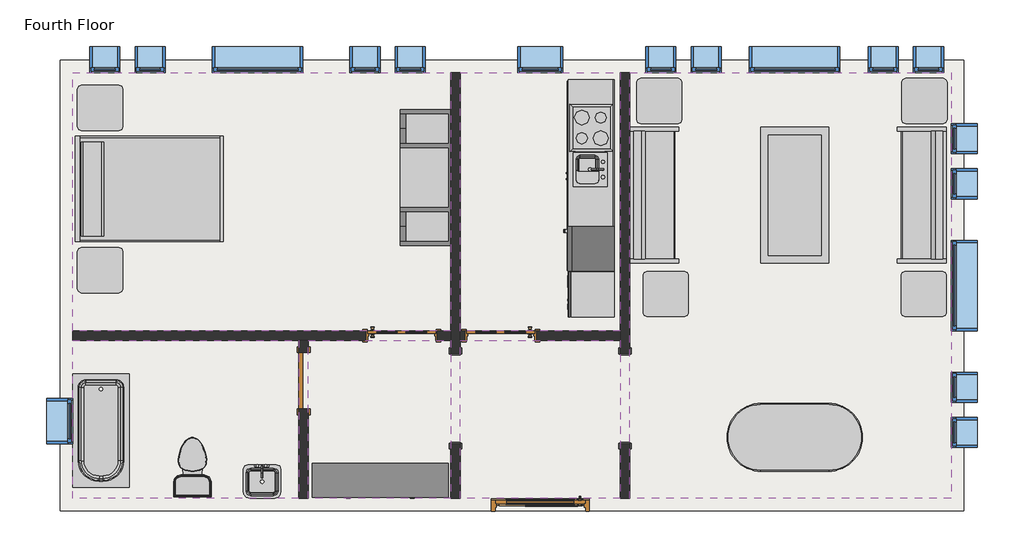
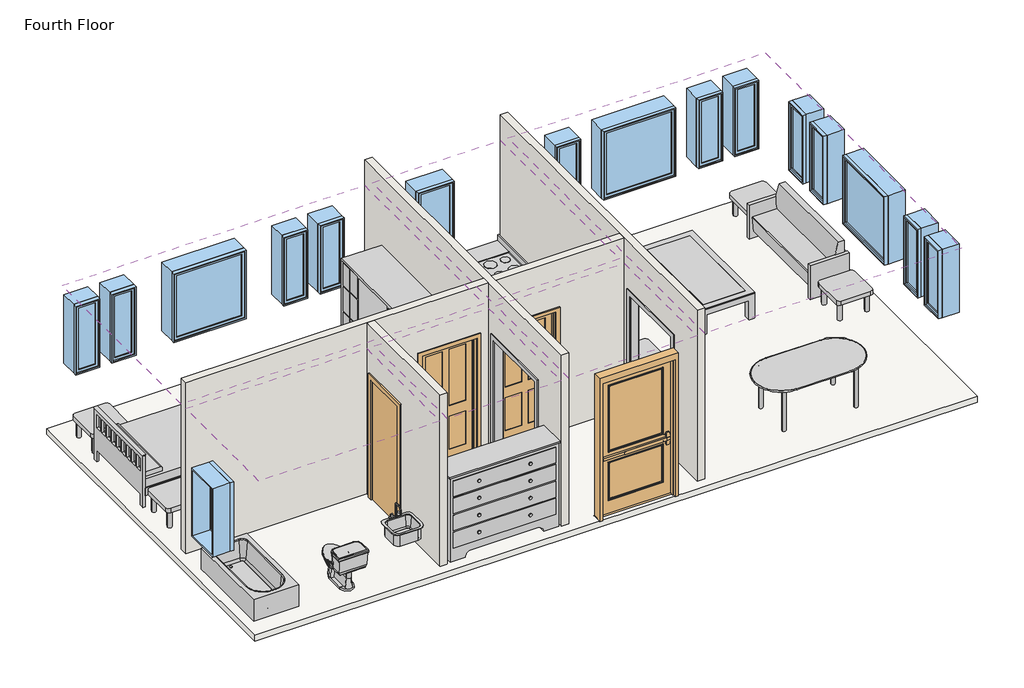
# One storey, incomplete: 17 windows, 14 furniture elements, 6 coverings, 6 proxies, 4 doors, 4 flow terminals, 4 walls, 1 slab.
"""IFC4 building model written with IfcOpenShell, lengths in millimetres."""

from ifc_helpers import new_model, si_unit, frame, origin, place, context, project, spatial, polyline, outline, extrude, faceted_brep, transform, mapped, element, save
from components import proxy_a6faaae8, proxy_45b28599, proxy_2d72b8be, proxy_f44482cc, proxy_d58c73d0, proxy_c523a7b7, door_734823c0, door_3a280f7b, door_48307b55, door_4d6c7550, flow_terminal_871c2e40, flow_terminal_62a433f7, toilet_domestic_3d_toilet_domestic_3d_f7549cf7, toilet_domestic_3d_toilet_domestic_3d_183bbd19, tub_rectangular_3d_tub_rectangular_3d_c56944d8, furniture_096e7f55, furniture_b11095bc, furniture_7c473f12, furniture_cf0b6580, furniture_a4ffab56, furniture_4aa42607, furniture_cd93a443, furniture_2c34a4f9, furniture_3a588284, furniture_1befe2a2, window_da97879f, window_d61ef850, window_60baf983, window_6eb97611

model = new_model("IFC4")

# Units and contexts
model_context = context("Model", 3, world=origin())
ifc_project = project(units=[si_unit("LENGTHUNIT", "METRE", prefix="MILLI")], contexts=[model_context])

# Site, building, storey
site = spatial("IfcSite", under=ifc_project)
building = spatial("IfcBuilding", under=site)
storey = spatial("IfcBuildingStorey", under=building, Name="Fourth Floor", Elevation=9144.0)

# Proxies
placement = place(None, origin())
proxy_shape = proxy_a6faaae8(model_context)
element("IfcBuildingElementProxy", 1, Name="Cook Top-4 Unit2 : 22\" x 20\"", ObjectType="Cook Top-4 Unit2 : 22\" x 20\"", at=placement, inside=storey, context=model_context, shape_type="MappedRepresentation", body=[
    mapped(proxy_shape, transform((-9031.7273953, 6866.0370415, 9145.7), x_axis=(0.0, 1.0, 0.0), y_axis=(-1.0, 0.0, 0.0), z_axis=(0.0, 0.0, 1.0))),
])
proxy_2_shape = proxy_45b28599(model_context)
element("IfcBuildingElementProxy", 2, Name="Dishwasher : 24\" x 24\" x 34\"", ObjectType="Dishwasher : 24\" x 24\" x 34\"", at=placement, inside=storey, context=model_context, shape_type="MappedRepresentation", body=[
    mapped(proxy_2_shape, transform((-9291.8269601, 5000.45451, 9144.0), x_axis=(0.0, -1.0, 0.0), y_axis=(1.0, 0.0, 0.0), z_axis=(0.0, 0.0, 1.0))),
])
proxy_3_shape = proxy_2d72b8be(model_context)
element("IfcBuildingElementProxy", 3, Name="Kitchenette - Medium : 8'6\"", ObjectType="Kitchenette - Medium : 8'6\"", at=placement, inside=storey, context=model_context, shape_type="MappedRepresentation", body=[
    mapped(proxy_3_shape, transform((-8720.5773953, 6237.0747464, 9144.0), x_axis=(0.0, -1.0, 0.0), y_axis=(1.0, 0.0, 0.0), z_axis=(0.0, 0.0, 1.0))),
])
proxy_4_shape = proxy_f44482cc(model_context)
element("IfcBuildingElementProxy", 4, Name="Passage Opening-Cased : 48\" x 84\"", ObjectType="Passage Opening-Cased : 48\" x 84\"", at=placement, inside=storey, context=model_context, shape_type="MappedRepresentation", body=[
    mapped(proxy_4_shape, transform((-8577.1844712, 3224.0452741, 9144.0), x_axis=(0.0, 1.0, 0.0), y_axis=(-1.0, 0.0, 0.0), z_axis=(0.0, 0.0, 1.0))),
])
proxy_5_shape = proxy_d58c73d0(model_context)
element("IfcBuildingElementProxy", 5, Name="Passage Opening-Cased : 48\" x 84\"", ObjectType="Passage Opening-Cased : 48\" x 84\"", at=placement, inside=storey, context=model_context, shape_type="MappedRepresentation", body=[
    mapped(proxy_5_shape, transform((-10863.1844712, 3224.0452741, 9144.0), x_axis=(0.0, 1.0, 0.0), y_axis=(-1.0, 0.0, 0.0), z_axis=(0.0, 0.0, 1.0))),
])
proxy_6_shape = proxy_c523a7b7(model_context)
element("IfcBuildingElementProxy", 6, Name="Refrigerator : 24\" x 25\" LH", ObjectType="Refrigerator : 24\" x 25\" LH", at=placement, inside=storey, context=model_context, shape_type="MappedRepresentation", body=[
    mapped(proxy_6_shape, transform((-9020.2263668, 5234.0870415, 9144.0), x_axis=(0.0, -1.0, 0.0), y_axis=(1.0, 0.0, 0.0), z_axis=(0.0, 0.0, 1.0))),
])

# Coverings
element("IfcCovering", 7, ObjectType="GWB on Mtl. Stud", at=placement, inside=storey, context=model_context, shape_type="SweptSolid", body=[
    extrude(outline(polyline([(-16020.9719712, 7611.6441174), (-10926.6844712, 7611.6441174), (-10926.6844712, 4128.6691174), (-16020.9719712, 4128.6691174), (-16020.9719712, 7611.6441174)])), frame((0.0, 0.0, 11734.8), z_axis=(0.0, 0.0, 1.0), x_axis=(1.0, 0.0, 0.0)), (0.0, 0.0, 1.0), 107.95),
])
element("IfcCovering", 8, ObjectType="GWB on Mtl. Stud", at=placement, inside=storey, context=model_context, shape_type="SweptSolid", body=[
    extrude(outline(polyline([(-10799.6844712, 4128.6691174), (-10799.6844712, 7611.6441174), (-8640.6844712, 7611.6441174), (-8640.6844712, 4128.6691174), (-10799.6844712, 4128.6691174)])), frame((0.0, 0.0, 11734.8), z_axis=(0.0, 0.0, 1.0), x_axis=(1.0, 0.0, 0.0)), (0.0, 0.0, 1.0), 107.95),
])
element("IfcCovering", 9, ObjectType="GWB on Mtl. Stud", at=placement, inside=storey, context=model_context, shape_type="SweptSolid", body=[
    extrude(outline(polyline([(-8513.6844712, 1868.0691174), (-8513.6844712, 7611.6441174), (-4181.3969712, 7611.6441174), (-4181.3969712, 1868.0691174), (-8513.6844712, 1868.0691174)])), frame((0.0, 0.0, 11734.8), z_axis=(0.0, 0.0, 1.0), x_axis=(1.0, 0.0, 0.0)), (0.0, 0.0, 1.0), 107.95),
])
element("IfcCovering", 10, ObjectType="GWB on Mtl. Stud", at=placement, inside=storey, context=model_context, shape_type="SweptSolid", body=[
    extrude(outline(polyline([(-8640.6844712, 1868.0691174), (-10799.6844712, 1868.0691174), (-10799.6844712, 4001.6691174), (-8640.6844712, 4001.6691174), (-8640.6844712, 1868.0691174)])), frame((0.0, 0.0, 11734.8), z_axis=(0.0, 0.0, 1.0), x_axis=(1.0, 0.0, 0.0)), (0.0, 0.0, 1.0), 107.95),
])
element("IfcCovering", 11, ObjectType="GWB on Mtl. Stud", at=placement, inside=storey, context=model_context, shape_type="SweptSolid", body=[
    extrude(outline(polyline([(-10926.6844712, 1868.0691174), (-12845.9719712, 1868.0691174), (-12845.9719712, 4001.6691174), (-10926.6844712, 4001.6691174), (-10926.6844712, 1868.0691174)])), frame((0.0, 0.0, 11734.8), z_axis=(0.0, 0.0, 1.0), x_axis=(1.0, 0.0, 0.0)), (0.0, 0.0, 1.0), 107.95),
])
element("IfcCovering", 12, ObjectType="GWB on Mtl. Stud", at=placement, inside=storey, context=model_context, shape_type="SweptSolid", body=[
    extrude(outline(polyline([(-12972.9719712, 4001.6691174), (-12972.9719712, 1868.0691174), (-16020.9719712, 1868.0691174), (-16020.9719712, 4001.6691174), (-12972.9719712, 4001.6691174)])), frame((0.0, 0.0, 11734.8), z_axis=(0.0, 0.0, 1.0), x_axis=(1.0, 0.0, 0.0)), (0.0, 0.0, 1.0), 107.95),
])

# Doors
door_shape = door_734823c0(model_context)
element("IfcDoor", 13, ObjectType="Door-Exterior-Single-Two_Lite : 48\" x 96\"", at=placement, inside=storey, context=model_context, shape_type="MappedRepresentation", body=[
    mapped(door_shape, transform((-9720.1844712, 1685.5066174, 9144.0), x_axis=(-1.0, 0.0, 0.0), y_axis=(0.0, -1.0, 0.0), z_axis=(0.0, 0.0, 1.0))),
])
door_2_shape = door_3a280f7b(model_context)
element("IfcDoor", 14, ObjectType="Door-Interior-Single-4_Panel-Wood : 36\" x 84\"", at=placement, inside=storey, context=model_context, shape_type="MappedRepresentation", body=[
    mapped(door_2_shape, transform((-10253.5844712, 4068.3441174, 9144.0), x_axis=(-1.0, 0.0, 0.0), y_axis=(0.0, -1.0, 0.0), z_axis=(0.0, 0.0, 1.0))),
])
door_3_shape = door_48307b55(model_context)
element("IfcDoor", 15, ObjectType="Door-Interior-Single-4_Panel-Wood : 36\" x 84\"", at=placement, inside=storey, context=model_context, shape_type="MappedRepresentation", body=[
    mapped(door_3_shape, transform((-11588.6719712, 4068.3441174, 9144.0), x_axis=(1.0, 0.0, 0.0), y_axis=(0.0, 1.0, 0.0), z_axis=(0.0, 0.0, 1.0))),
])
door_4_shape = door_4d6c7550(model_context)
element("IfcDoor", 16, ObjectType="Single-Flush : 30\" x 84\"", at=placement, inside=storey, context=model_context, shape_type="MappedRepresentation", body=[
    mapped(door_4_shape, transform((-12909.4719712, 3455.5691174, 9144.0), x_axis=(0.0, 1.0, 0.0), y_axis=(-1.0, 0.0, 0.0), z_axis=(0.0, 0.0, 1.0))),
])

# Flow terminals
flow_terminal_shape = flow_terminal_871c2e40(model_context)
element("IfcFlowTerminal", 17, ObjectType="Sink Kitchen-Island : 18\" x 18\"", at=placement, inside=storey, context=model_context, shape_type="MappedRepresentation", body=[
    mapped(flow_terminal_shape, transform((-9048.7582992, 6321.1277059, 9131.3), x_axis=(0.0, -1.0, 0.0), y_axis=(1.0, 0.0, 0.0), z_axis=(0.0, 0.0, 1.0))),
])
flow_terminal_2_shape = flow_terminal_62a433f7(model_context)
element("IfcFlowTerminal", 18, ObjectType="Sink Vanity-Square : 20\" x 18\"", at=placement, inside=storey, context=model_context, shape_type="MappedRepresentation", body=[
    mapped(flow_terminal_2_shape, transform((-13483.9612118, 2145.1237163, 9144.0), x_axis=(1.0, 0.0, 0.0), y_axis=(0.0, 1.0, 0.0), z_axis=(0.0, 0.0, 1.0))),
])
toilet_domestic_3d_toilet_domestic_3d_shape = toilet_domestic_3d_toilet_domestic_3d_f7549cf7(model_context)
toilet_domestic_3d_toilet_domestic_3d_2_shape = toilet_domestic_3d_toilet_domestic_3d_183bbd19(model_context)
element("IfcFlowTerminal", 19, ObjectType="Toilet-Domestic-3D : Toilet-Domestic-3D", at=placement, inside=storey, context=model_context, shape_type="MappedRepresentation", body=[
    mapped(toilet_domestic_3d_toilet_domestic_3d_shape, transform((-14408.0719712, 2388.7691174, 9144.0), x_axis=(-1.0, 0.0, 0.0), y_axis=(0.0, -1.0, 0.0), z_axis=(0.0, 0.0, 1.0))),
    mapped(toilet_domestic_3d_toilet_domestic_3d_2_shape, transform((-14408.0719712, 2388.7691174, 9144.0), x_axis=(-1.0, 0.0, 0.0), y_axis=(0.0, -1.0, 0.0), z_axis=(0.0, 0.0, 1.0))),
])
tub_rectangular_3d_tub_rectangular_3d_shape = tub_rectangular_3d_tub_rectangular_3d_c56944d8(model_context)
element("IfcFlowTerminal", 20, ObjectType="Tub-Rectangular-3D : Tub-Rectangular-3D", at=placement, inside=storey, context=model_context, shape_type="MappedRepresentation", body=[
    mapped(tub_rectangular_3d_tub_rectangular_3d_shape, transform((-16197.1844712, 2435.4536487, 9144.0), x_axis=(0.0, -1.0, 0.0), y_axis=(1.0, 0.0, 0.0), z_axis=(0.0, 0.0, 1.0))),
])

# Furniture
furniture_shape = furniture_096e7f55(model_context)
element("IfcFurniture", 21, ObjectType="Bed-Shaker : Double 56\" x 78\"", at=placement, inside=storey, context=model_context, shape_type="MappedRepresentation", body=[
    mapped(furniture_shape, transform((-15975.8112951, 6061.1004868, 9144.0), x_axis=(0.0, 1.0, 0.0), y_axis=(-1.0, 0.0, 0.0), z_axis=(0.0, 0.0, 1.0))),
])
furniture_2_shape = furniture_b11095bc(model_context)
element("IfcFurniture", 22, ObjectType="Counter Top w Sink Hole : 24\" Depth", at=placement, inside=storey, context=model_context, shape_type="MappedRepresentation", body=[
    mapped(furniture_2_shape, transform((-8720.5773953, 6313.2747464, 9131.3), x_axis=(0.0, -1.0, 0.0), y_axis=(1.0, 0.0, 0.0), z_axis=(0.0, 0.0, 1.0))),
])
furniture_3_shape = furniture_7c473f12(model_context)
element("IfcFurniture", 23, ObjectType="Dresser : 72\" x 60\" x 18\"", at=placement, inside=storey, context=model_context, shape_type="MappedRepresentation", body=[
    mapped(furniture_3_shape, transform((-11608.4037114, 2478.8820715, 9144.0), x_axis=(1.0, 0.0, 0.0), y_axis=(0.0, 1.0, 0.0), z_axis=(0.0, 0.0, 1.0))),
])
furniture_4_shape = furniture_cf0b6580(model_context)
element("IfcFurniture", 24, ObjectType="Entertainment Center : 72\" x 72\" x 24\"", at=placement, inside=storey, context=model_context, shape_type="MappedRepresentation", body=[
    mapped(furniture_4_shape, transform((-10825.0844712, 6196.8069525, 9144.0), x_axis=(0.0, -1.0, 0.0), y_axis=(1.0, 0.0, 0.0), z_axis=(0.0, 0.0, 1.0))),
])
furniture_5_shape = furniture_a4ffab56(model_context)
element("IfcFurniture", 25, ObjectType="Sofa : 72\"", at=placement, inside=storey, context=model_context, shape_type="MappedRepresentation", body=[
    mapped(furniture_5_shape, transform((-8037.3303728, 5888.6861256, 9144.0), x_axis=(0.0, 1.0, 0.0), y_axis=(-1.0, 0.0, 0.0), z_axis=(0.0, 0.0, 1.0))),
])
furniture_6_shape = furniture_4aa42607(model_context)
element("IfcFurniture", 26, ObjectType="Sofa : 72\"", at=placement, inside=storey, context=model_context, shape_type="MappedRepresentation", body=[
    mapped(furniture_6_shape, transform((-4722.8385696, 5888.6861256, 9144.0), x_axis=(0.0, 1.0, 0.0), y_axis=(-1.0, 0.0, 0.0), z_axis=(0.0, 0.0, 1.0))),
])
furniture_7_shape = furniture_cd93a443(model_context)
element("IfcFurniture", 27, ObjectType="Table-Coffee : 36\" x 72\" x 18\"", at=placement, inside=storey, context=model_context, shape_type="MappedRepresentation", body=[
    mapped(furniture_7_shape, transform((-6386.395549, 5977.3223841, 9144.0), x_axis=(0.0, -1.0, 0.0), y_axis=(1.0, 0.0, 0.0), z_axis=(0.0, 0.0, 1.0))),
])
furniture_8_shape = furniture_2c34a4f9(model_context)
element("IfcFurniture", 28, ObjectType="Table-Dining Oval : 36\" x 72\"", at=placement, inside=storey, context=model_context, shape_type="MappedRepresentation", body=[
    mapped(furniture_8_shape, transform((-5889.3647991, 3051.6674781, 9144.0), x_axis=(1.0, 0.0, 0.0), y_axis=(0.0, 1.0, 0.0), z_axis=(0.0, 0.0, 1.0))),
])
furniture_9_shape = furniture_3a588284(model_context)
element("IfcFurniture", 29, ObjectType="Table-End : 24\" x 24\"", at=placement, inside=storey, context=model_context, shape_type="MappedRepresentation", body=[
    mapped(furniture_9_shape, transform((-8424.0054177, 7076.6566174, 9144.0), x_axis=(1.0, 0.0, 0.0), y_axis=(0.0, 1.0, 0.0), z_axis=(0.0, 0.0, 1.0))),
])
element("IfcFurniture", 30, ObjectType="Table-End : 24\" x 24\"", at=placement, inside=storey, context=model_context, shape_type="MappedRepresentation", body=[
    mapped(furniture_9_shape, transform((-8338.5433691, 4473.0178252, 9144.0), x_axis=(1.0, 0.0, 0.0), y_axis=(0.0, 1.0, 0.0), z_axis=(0.0, 0.0, 1.0))),
])
element("IfcFurniture", 31, ObjectType="Table-End : 24\" x 24\"", at=placement, inside=storey, context=model_context, shape_type="MappedRepresentation", body=[
    mapped(furniture_9_shape, transform((-15961.2056015, 4795.4191174, 9144.0), x_axis=(1.0, 0.0, 0.0), y_axis=(0.0, 1.0, 0.0), z_axis=(0.0, 0.0, 1.0))),
])
furniture_10_shape = furniture_1befe2a2(model_context)
element("IfcFurniture", 32, ObjectType="Table-End : 24\" x 24\"", at=placement, inside=storey, context=model_context, shape_type="MappedRepresentation", body=[
    mapped(furniture_10_shape, transform((-4234.5635246, 7076.6566174, 9144.0), x_axis=(-1.0, 0.0, 0.0), y_axis=(0.0, -1.0, 0.0), z_axis=(0.0, 0.0, 1.0))),
])
element("IfcFurniture", 33, ObjectType="Table-End : 24\" x 24\"", at=placement, inside=storey, context=model_context, shape_type="MappedRepresentation", body=[
    mapped(furniture_10_shape, transform((-4243.8255733, 4473.0178252, 9144.0), x_axis=(-1.0, 0.0, 0.0), y_axis=(0.0, -1.0, 0.0), z_axis=(0.0, 0.0, 1.0))),
])
element("IfcFurniture", 34, ObjectType="Table-End : 24\" x 24\"", at=placement, inside=storey, context=model_context, shape_type="MappedRepresentation", body=[
    mapped(furniture_10_shape, transform((-15961.2056015, 7288.6818561, 9144.0), x_axis=(1.0, 0.0, 0.0), y_axis=(0.0, 1.0, 0.0), z_axis=(0.0, 0.0, 1.0))),
])

# Slab
element("IfcSlab", 35, ObjectType="LW Concrete on Metal Deck", at=placement, inside=storey, context=model_context, shape_type="SweptSolid", body=[
    extrude(outline(polyline([(-4016.2969712, 7776.7441174), (-4016.2969712, 1702.9691174), (-16186.0719712, 1702.9691174), (-16186.0719712, 7776.7441174), (-4016.2969712, 7776.7441174)])), frame((0.0, 0.0, 9039.225), z_axis=(0.0, 0.0, 1.0), x_axis=(1.0, 0.0, 0.0)), (0.0, 0.0, 1.0), 104.775),
])

# Walls
element("IfcWall", 36, ObjectType="Interior - 5\" Partition (2-hr)", at=placement, inside=storey, context=model_context, shape_type="Brep", body=[
    faceted_brep([(-8640.6844712, 7611.6441174, 9144.0), (-8640.6844712, 4128.6691174, 9144.0), (-8640.6844712, 4001.6691174, 9144.0), (-8640.6844712, 3825.4566174, 9144.0), (-8640.6844712, 3825.4566174, 11277.6), (-8640.6844712, 2606.2566174, 11277.6), (-8640.6844712, 2606.2566174, 9144.0), (-8640.6844712, 1868.0691174, 9144.0), (-8640.6844712, 1868.0691174, 12192.0), (-8640.6844712, 4001.6691174, 12192.0), (-8640.6844712, 4128.6691174, 12192.0), (-8640.6844712, 7611.6441174, 12192.0), (-8513.6844712, 3825.4566174, 11277.6), (-8513.6844712, 3825.4566174, 9144.0), (-8513.6844712, 7611.6441174, 9144.0), (-8513.6844712, 7611.6441174, 12192.0), (-8513.6844712, 1868.0691174, 12192.0), (-8513.6844712, 1868.0691174, 9144.0), (-8513.6844712, 2606.2566174, 9144.0), (-8513.6844712, 2606.2566174, 11277.6)], [[[0, 1, 2, 3, 4, 5, 6, 7, 8, 9, 10, 11]], [[12, 13, 14, 15, 16, 17, 18, 19]], [[18, 17, 7, 6]], [[14, 13, 3, 2, 1, 0]], [[11, 10, 9, 8, 16, 15]], [[6, 5, 19, 18]], [[4, 3, 13, 12]], [[5, 4, 12, 19]], [[0, 11, 15, 14]], [[8, 7, 17, 16]]]),
])
element("IfcWall", 37, ObjectType="Interior - 5\" Partition (2-hr)", at=placement, inside=storey, context=model_context, shape_type="Brep", body=[
    faceted_brep([(-10926.6844712, 7611.6441174, 9144.0), (-10926.6844712, 4128.6691174, 9144.0), (-10926.6844712, 4001.6691174, 9144.0), (-10926.6844712, 3825.4566174, 9144.0), (-10926.6844712, 3825.4566174, 11277.6), (-10926.6844712, 2606.2566174, 11277.6), (-10926.6844712, 2606.2566174, 9144.0), (-10926.6844712, 1868.0691174, 9144.0), (-10926.6844712, 1868.0691174, 12192.0), (-10926.6844712, 4001.6691174, 12192.0), (-10926.6844712, 4128.6691174, 12192.0), (-10926.6844712, 7611.6441174, 12192.0), (-10799.6844712, 3825.4566174, 11277.6), (-10799.6844712, 3825.4566174, 9144.0), (-10799.6844712, 4001.6691174, 9144.0), (-10799.6844712, 4128.6691174, 9144.0), (-10799.6844712, 7611.6441174, 9144.0), (-10799.6844712, 7611.6441174, 12192.0), (-10799.6844712, 4128.6691174, 12192.0), (-10799.6844712, 4001.6691174, 12192.0), (-10799.6844712, 1868.0691174, 12192.0), (-10799.6844712, 1868.0691174, 9144.0), (-10799.6844712, 2606.2566174, 9144.0), (-10799.6844712, 2606.2566174, 11277.6)], [[[0, 1, 2, 3, 4, 5, 6, 7, 8, 9, 10, 11]], [[12, 13, 14, 15, 16, 17, 18, 19, 20, 21, 22, 23]], [[22, 21, 7, 6]], [[16, 15, 14, 13, 3, 2, 1, 0]], [[11, 10, 9, 8, 20, 19, 18, 17]], [[6, 5, 23, 22]], [[4, 3, 13, 12]], [[5, 4, 12, 23]], [[0, 11, 17, 16]], [[8, 7, 21, 20]]]),
])
element("IfcWall", 38, ObjectType="Interior - 5\" Partition (2-hr)", at=placement, inside=storey, context=model_context, shape_type="Brep", body=[
    faceted_brep([(-8640.6844712, 4001.6691174, 9144.0), (-8640.6844712, 4001.6691174, 12192.0), (-10799.6844712, 4001.6691174, 12192.0), (-10799.6844712, 4001.6691174, 9144.0), (-10736.1844712, 4001.6691174, 9144.0), (-10736.1844712, 4001.6691174, 11303.0), (-9770.9844712, 4001.6691174, 11303.0), (-9770.9844712, 4001.6691174, 9144.0), (-8640.6844712, 4128.6691174, 12192.0), (-8640.6844712, 4128.6691174, 9144.0), (-9770.9844712, 4128.6691174, 9144.0), (-9770.9844712, 4128.6691174, 11303.0), (-10736.1844712, 4128.6691174, 11303.0), (-10736.1844712, 4128.6691174, 9144.0), (-10799.6844712, 4128.6691174, 9144.0), (-10799.6844712, 4128.6691174, 12192.0)], [[[0, 1, 2, 3, 4, 5, 6, 7]], [[8, 9, 10, 11, 12, 13, 14, 15]], [[9, 0, 7, 10]], [[13, 4, 3, 14]], [[1, 8, 15, 2]], [[1, 0, 9, 8]], [[3, 2, 15, 14]], [[5, 4, 13, 12]], [[6, 5, 12, 11]], [[7, 6, 11, 10]]]),
    faceted_brep([(-16020.9719712, 4001.6691174, 9144.0), (-12972.9719712, 4001.6691174, 9144.0), (-12845.9719712, 4001.6691174, 9144.0), (-12071.2719712, 4001.6691174, 9144.0), (-12071.2719712, 4001.6691174, 11303.0), (-11106.0719712, 4001.6691174, 11303.0), (-11106.0719712, 4001.6691174, 9144.0), (-10926.6844712, 4001.6691174, 9144.0), (-10926.6844712, 4001.6691174, 12192.0), (-12845.9719712, 4001.6691174, 12192.0), (-12972.9719712, 4001.6691174, 12192.0), (-16020.9719712, 4001.6691174, 12192.0), (-12071.2719712, 4128.6691174, 9144.0), (-16020.9719712, 4128.6691174, 9144.0), (-16020.9719712, 4128.6691174, 12192.0), (-10926.6844712, 4128.6691174, 12192.0), (-10926.6844712, 4128.6691174, 9144.0), (-11106.0719712, 4128.6691174, 9144.0), (-11106.0719712, 4128.6691174, 11303.0), (-12071.2719712, 4128.6691174, 11303.0)], [[[0, 1, 2, 3, 4, 5, 6, 7, 8, 9, 10, 11]], [[12, 13, 14, 15, 16, 17, 18, 19]], [[6, 17, 16, 7]], [[3, 2, 1, 0, 13, 12]], [[14, 11, 10, 9, 8, 15]], [[8, 7, 16, 15]], [[5, 18, 17, 6]], [[18, 5, 4, 19]], [[19, 4, 3, 12]], [[0, 11, 14, 13]]]),
])
element("IfcWall", 39, ObjectType="Interior - 5\" Partition (2-hr)", at=placement, inside=storey, context=model_context, shape_type="SweptSolid", body=[
    extrude(outline(polyline([(4001.6691174, 9144.0), (3836.5691174, 9144.0), (3836.5691174, 11277.6), (3074.5691174, 11277.6), (3074.5691174, 9144.0), (1868.0691174, 9144.0), (1868.0691174, 12192.0), (4001.6691174, 12192.0), (4001.6691174, 9144.0)])), frame((-12972.9719712, 0.0, 0.0), z_axis=(1.0, 0.0, 0.0), x_axis=(0.0, 1.0, 0.0)), (0.0, 0.0, 1.0), 127.0),
])

# Windows
window_shape = window_da97879f(model_context)
element("IfcWindow", 40, ObjectType="Fixed : 16\" x 48\"", at=placement, inside=storey, context=model_context, shape_type="MappedRepresentation", body=[
    mapped(window_shape, transform((-15625.6844712, 7787.8566174, 9144.0), x_axis=(-1.0, 0.0, 0.0), y_axis=(0.0, -1.0, 0.0), z_axis=(0.0, 0.0, 1.0))),
])
element("IfcWindow", 41, ObjectType="Fixed : 16\" x 48\"", at=placement, inside=storey, context=model_context, shape_type="MappedRepresentation", body=[
    mapped(window_shape, transform((-15016.0844712, 7787.8566174, 9144.0), x_axis=(-1.0, 0.0, 0.0), y_axis=(0.0, -1.0, 0.0), z_axis=(0.0, 0.0, 1.0))),
])
element("IfcWindow", 42, ObjectType="Fixed : 16\" x 48\"", at=placement, inside=storey, context=model_context, shape_type="MappedRepresentation", body=[
    mapped(window_shape, transform((-8132.6844712, 7787.8566174, 9144.0), x_axis=(-1.0, 0.0, 0.0), y_axis=(0.0, -1.0, 0.0), z_axis=(0.0, 0.0, 1.0))),
])
element("IfcWindow", 43, ObjectType="Fixed : 16\" x 48\"", at=placement, inside=storey, context=model_context, shape_type="MappedRepresentation", body=[
    mapped(window_shape, transform((-7523.0844712, 7787.8566174, 9144.0), x_axis=(-1.0, 0.0, 0.0), y_axis=(0.0, -1.0, 0.0), z_axis=(0.0, 0.0, 1.0))),
])
element("IfcWindow", 44, ObjectType="Fixed : 16\" x 48\"", at=placement, inside=storey, context=model_context, shape_type="MappedRepresentation", body=[
    mapped(window_shape, transform((-4005.1844712, 6759.1566174, 9144.0), x_axis=(0.0, 1.0, 0.0), y_axis=(-1.0, 0.0, 0.0), z_axis=(0.0, 0.0, 1.0))),
])
element("IfcWindow", 45, ObjectType="Fixed : 16\" x 48\"", at=placement, inside=storey, context=model_context, shape_type="MappedRepresentation", body=[
    mapped(window_shape, transform((-4005.1844712, 6149.5566174, 9144.0), x_axis=(0.0, 1.0, 0.0), y_axis=(-1.0, 0.0, 0.0), z_axis=(0.0, 0.0, 1.0))),
])
window_2_shape = window_d61ef850(model_context)
element("IfcWindow", 46, ObjectType="Fixed : 16\" x 48\"", at=placement, inside=storey, context=model_context, shape_type="MappedRepresentation", body=[
    mapped(window_2_shape, transform((-11434.6844712, 7787.8566174, 9144.0), x_axis=(1.0, 0.0, 0.0), y_axis=(0.0, 1.0, 0.0), z_axis=(0.0, 0.0, 1.0))),
])
element("IfcWindow", 47, ObjectType="Fixed : 16\" x 48\"", at=placement, inside=storey, context=model_context, shape_type="MappedRepresentation", body=[
    mapped(window_2_shape, transform((-12044.2844712, 7787.8566174, 9144.0), x_axis=(1.0, 0.0, 0.0), y_axis=(0.0, 1.0, 0.0), z_axis=(0.0, 0.0, 1.0))),
])
element("IfcWindow", 48, ObjectType="Fixed : 16\" x 48\"", at=placement, inside=storey, context=model_context, shape_type="MappedRepresentation", body=[
    mapped(window_2_shape, transform((-4449.6844712, 7787.8566174, 9144.0), x_axis=(1.0, 0.0, 0.0), y_axis=(0.0, 1.0, 0.0), z_axis=(0.0, 0.0, 1.0))),
])
element("IfcWindow", 49, ObjectType="Fixed : 16\" x 48\"", at=placement, inside=storey, context=model_context, shape_type="MappedRepresentation", body=[
    mapped(window_2_shape, transform((-5059.2844712, 7787.8566174, 9144.0), x_axis=(1.0, 0.0, 0.0), y_axis=(0.0, 1.0, 0.0), z_axis=(0.0, 0.0, 1.0))),
])
element("IfcWindow", 50, ObjectType="Fixed : 16\" x 48\"", at=placement, inside=storey, context=model_context, shape_type="MappedRepresentation", body=[
    mapped(window_2_shape, transform((-4005.1844712, 2720.5566174, 9144.0), x_axis=(0.0, -1.0, 0.0), y_axis=(1.0, 0.0, 0.0), z_axis=(0.0, 0.0, 1.0))),
])
element("IfcWindow", 51, ObjectType="Fixed : 16\" x 48\"", at=placement, inside=storey, context=model_context, shape_type="MappedRepresentation", body=[
    mapped(window_2_shape, transform((-4005.1844712, 3330.1566174, 9144.0), x_axis=(0.0, -1.0, 0.0), y_axis=(1.0, 0.0, 0.0), z_axis=(0.0, 0.0, 1.0))),
])
window_3_shape = window_60baf983(model_context)
element("IfcWindow", 52, ObjectType="Fixed : 24\" x 48\"", at=placement, inside=storey, context=model_context, shape_type="MappedRepresentation", body=[
    mapped(window_3_shape, transform((-9758.2844712, 7787.8566174, 9144.0), x_axis=(-1.0, 0.0, 0.0), y_axis=(0.0, -1.0, 0.0), z_axis=(0.0, 0.0, 1.0))),
])
element("IfcWindow", 53, ObjectType="Fixed : 24\" x 48\"", at=placement, inside=storey, context=model_context, shape_type="MappedRepresentation", body=[
    mapped(window_3_shape, transform((-16197.1844712, 2872.9566174, 9144.0), x_axis=(0.0, -1.0, 0.0), y_axis=(1.0, 0.0, 0.0), z_axis=(0.0, 0.0, 1.0))),
])
window_4_shape = window_6eb97611(model_context)
element("IfcWindow", 54, ObjectType="Fixed : 48\" x 48\"", at=placement, inside=storey, context=model_context, shape_type="MappedRepresentation", body=[
    mapped(window_4_shape, transform((-13568.2844712, 7787.8566174, 9144.0), x_axis=(-1.0, 0.0, 0.0), y_axis=(0.0, -1.0, 0.0), z_axis=(0.0, 0.0, 1.0))),
])
element("IfcWindow", 55, ObjectType="Fixed : 48\" x 48\"", at=placement, inside=storey, context=model_context, shape_type="MappedRepresentation", body=[
    mapped(window_4_shape, transform((-6329.2844712, 7787.8566174, 9144.0), x_axis=(-1.0, 0.0, 0.0), y_axis=(0.0, -1.0, 0.0), z_axis=(0.0, 0.0, 1.0))),
])
element("IfcWindow", 56, ObjectType="Fixed : 48\" x 48\"", at=placement, inside=storey, context=model_context, shape_type="MappedRepresentation", body=[
    mapped(window_4_shape, transform((-4005.1844712, 4777.9566174, 9144.0), x_axis=(0.0, 1.0, 0.0), y_axis=(-1.0, 0.0, 0.0), z_axis=(0.0, 0.0, 1.0))),
])

save(model, "model.ifc")
